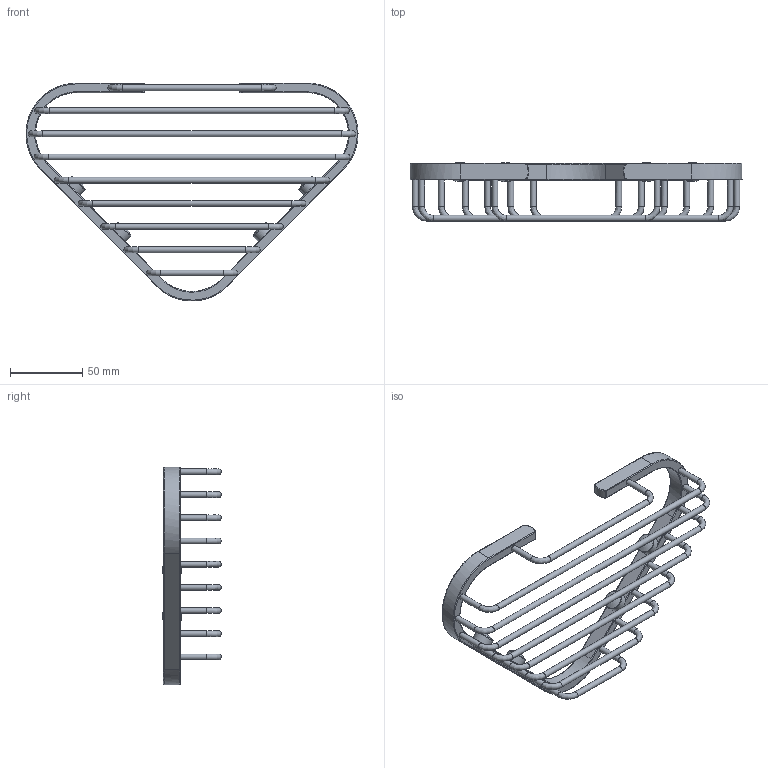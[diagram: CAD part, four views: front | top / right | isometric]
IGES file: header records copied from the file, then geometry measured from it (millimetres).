
Global section: file name: 21e1ec31-533d-4c51-8734-add6af14dc73; native system: unknown; preprocessor: unknown; author: unknown; organization: unknown; date: 20200109.104938; units: millimetre
Bounding box: 229.09 x 40.5 x 150.24 mm (x, y, z)
Volume: 65528.6 mm3; surface area: 41592.2 mm2
Topology: 1 solids, 1 shells, 131 faces, 354 edges, 221 vertices
Faces by surface type: bspline 131
